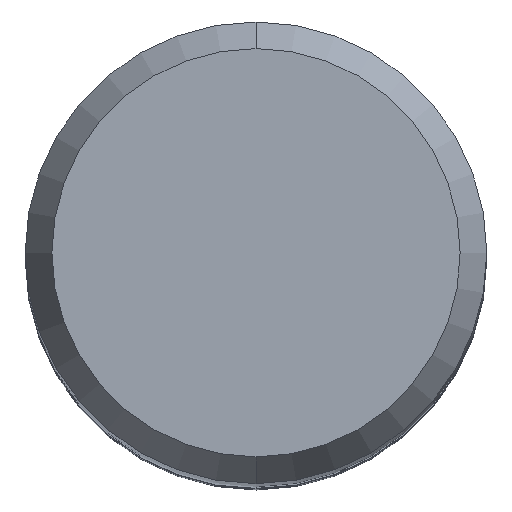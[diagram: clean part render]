
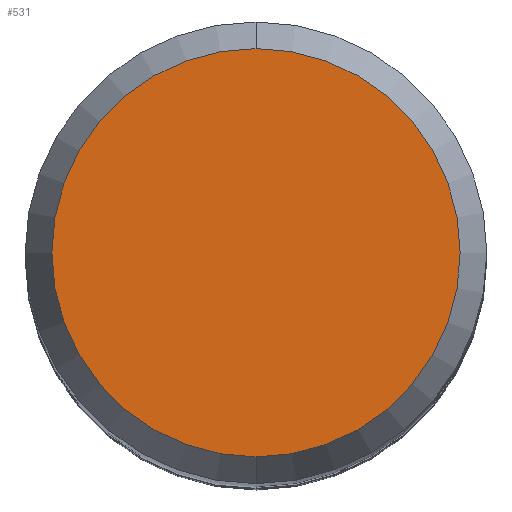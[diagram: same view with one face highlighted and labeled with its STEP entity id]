
A CAD part, top view. The second image highlights one B-rep face of the part: STEP entity #531.
In plain terms, the highlighted planar face has unit normal (0, 0, 1).
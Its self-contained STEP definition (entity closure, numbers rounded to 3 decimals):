
#305=VERTEX_POINT('',#717);
#361=EDGE_CURVE('',#305,#441,#781,.T.);
#441=VERTEX_POINT('',#867);
#531=ADVANCED_FACE('',(#970),#971,.T.);
#567=EDGE_CURVE('',#441,#305,#1011,.T.);
#717=CARTESIAN_POINT('',(0.0,4.423,0.0));
#781=CIRCLE('',#1353,4.423);
#867=CARTESIAN_POINT('',(0.,-4.423,0.0));
#970=FACE_OUTER_BOUND('',#1730,.T.);
#971=PLANE('',#1731);
#1011=CIRCLE('',#1809,4.423);
#1353=AXIS2_PLACEMENT_3D('',#2058,#2059,#2060);
#1730=EDGE_LOOP('',(#2277,#2278));
#1731=AXIS2_PLACEMENT_3D('',#2279,#2280,#2281);
#1809=AXIS2_PLACEMENT_3D('',#2324,#2325,#2326);
#2058=CARTESIAN_POINT('',(0.0,0.0,0.0));
#2059=DIRECTION('',(0.0,0.0,-1.0));
#2060=DIRECTION('',(0.0,1.0,0.0));
#2277=ORIENTED_EDGE('',*,*,#361,.F.);
#2278=ORIENTED_EDGE('',*,*,#567,.F.);
#2279=CARTESIAN_POINT('',(0.0,2.211,0.0));
#2280=DIRECTION('',(-0.0,0.0,1.0));
#2281=DIRECTION('',(0.0,-1.0,0.0));
#2324=CARTESIAN_POINT('',(0.0,0.0,0.0));
#2325=DIRECTION('',(0.0,0.0,-1.0));
#2326=DIRECTION('',(0.0,1.0,0.0));
